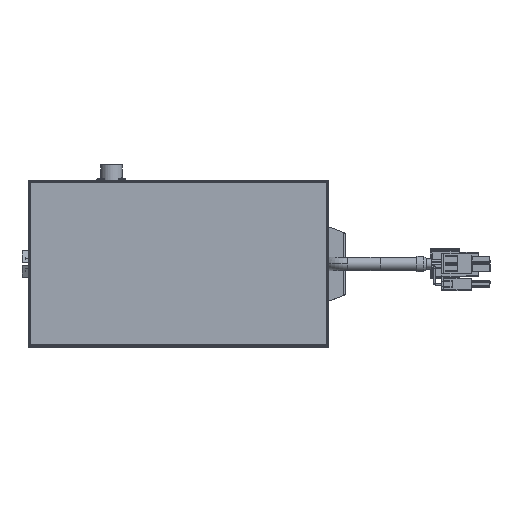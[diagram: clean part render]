
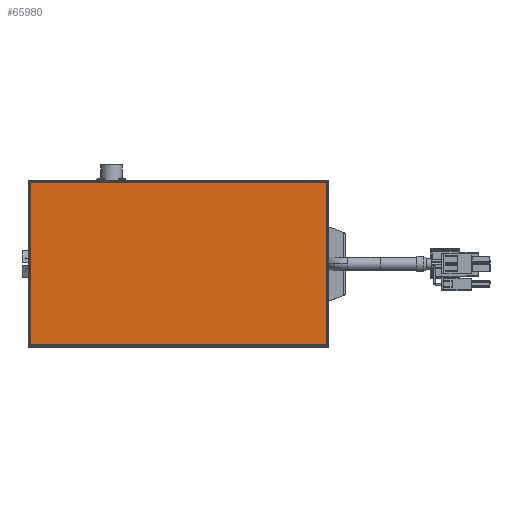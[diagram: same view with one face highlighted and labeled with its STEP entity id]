
A CAD part, top view. The second image highlights one B-rep face of the part: STEP entity #65980.
In plain terms, the highlighted planar face has unit normal (0, 0, 1).
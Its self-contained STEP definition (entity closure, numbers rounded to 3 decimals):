
#65513=CARTESIAN_POINT('',(-40.5,40.5,296.5));
#65514=VERTEX_POINT('',#65513);
#65539=CARTESIAN_POINT('',(106.5,40.5,296.5));
#65540=VERTEX_POINT('',#65539);
#65583=CARTESIAN_POINT('',(-40.5,-40.5,296.5));
#65584=VERTEX_POINT('',#65583);
#65609=CARTESIAN_POINT('',(106.5,-40.5,296.5));
#65610=VERTEX_POINT('',#65609);
#65650=CARTESIAN_POINT('',(106.5,-40.5,296.5));
#65651=DIRECTION('',(-1.,0.,0.));
#65652=VECTOR('',#65651,147.);
#65653=LINE('',#65650,#65652);
#65654=EDGE_CURVE('',#65610,#65584,#65653,.T.);
#65697=CARTESIAN_POINT('',(106.5,40.5,296.5));
#65698=DIRECTION('',(0.,-1.,0.));
#65699=VECTOR('',#65698,81.);
#65700=LINE('',#65697,#65699);
#65701=EDGE_CURVE('',#65540,#65610,#65700,.T.);
#65719=CARTESIAN_POINT('',(-40.5,-40.5,296.5));
#65720=DIRECTION('',(0.,1.,0.));
#65721=VECTOR('',#65720,81.);
#65722=LINE('',#65719,#65721);
#65723=EDGE_CURVE('',#65584,#65514,#65722,.T.);
#65773=CARTESIAN_POINT('',(-40.5,40.5,296.5));
#65774=DIRECTION('',(1.,0.,0.));
#65775=VECTOR('',#65774,147.);
#65776=LINE('',#65773,#65775);
#65777=EDGE_CURVE('',#65514,#65540,#65776,.T.);
#65969=CARTESIAN_POINT('',(33.,0.,296.5));
#65970=DIRECTION('',(-1.,0.,0.));
#65971=DIRECTION('',(0.,0.,1.));
#65972=AXIS2_PLACEMENT_3D('',#65969,#65971,#65970);
#65973=PLANE('',#65972);
#65974=ORIENTED_EDGE('',*,*,#65654,.F.);
#65975=ORIENTED_EDGE('',*,*,#65701,.F.);
#65976=ORIENTED_EDGE('',*,*,#65777,.F.);
#65977=ORIENTED_EDGE('',*,*,#65723,.F.);
#65978=EDGE_LOOP('',(#65974,#65975,#65976,#65977));
#65979=FACE_OUTER_BOUND('',#65978,.T.);
#65980=ADVANCED_FACE('F2875',(#65979),#65973,.T.);
